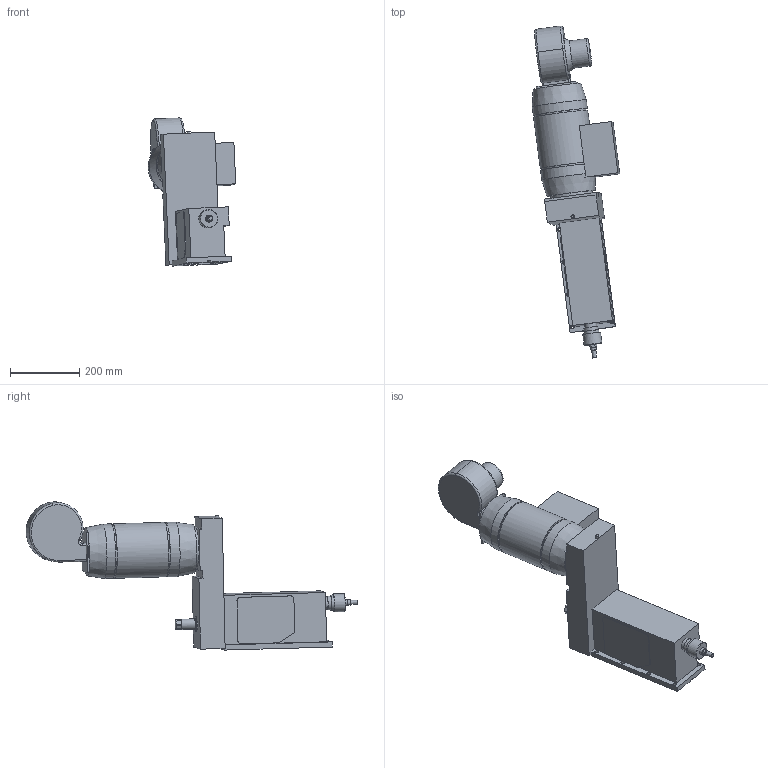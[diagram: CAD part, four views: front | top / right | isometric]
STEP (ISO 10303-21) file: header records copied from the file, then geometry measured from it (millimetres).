
FILE_DESCRIPTION((''),'2;1');
FILE_NAME('C:\VaultWork\Zeichnungen\Maßblätter\Gewindemaschinen\GE6-7\GE6-7-00-1 Maßblatt GE6-7 Z-Laterne.stp','2009-06-17T08:52:41',('Test'),(''),'Autodesk Inventor 2008','Autodesk Inventor 2008','');
FILE_SCHEMA(('AUTOMOTIVE_DESIGN { 1 0 10303 214 1 1 1 1 }'));
Length unit declared in the file: millimetre
Products named in the file (1): GE6-7-00-1 Maßblatt GE6-7 Z-Laterne
Bounding box: 253.41 x 961.51 x 429.12 mm (x, y, z)
Volume: 18835837 mm3; surface area: 725327.5 mm2
Topology: 1 solids, 5 shells, 220 faces, 512 edges, 332 vertices
Faces by surface type: plane 125, cylinder 42, bspline 36, torus 10, cone 7
Full cylindrical faces by diameter (mm): 7 x2, 10 x1, 11.5 x1, 14 x1, 16 x1, 20 x1, 26 x1, 30 x2, 35 x1, 40 x1, 44 x1, 45 x1, 52 x1, 80 x1, 120 x1, 150 x1, 158 x2
Entity records: 6438 total; most frequent: CARTESIAN_POINT 1474, DIRECTION 966, ORIENTED_EDGE 876, EDGE_CURVE 438, AXIS2_PLACEMENT_3D 357, EDGE_LOOP 323, VERTEX_POINT 315, VECTOR 252
